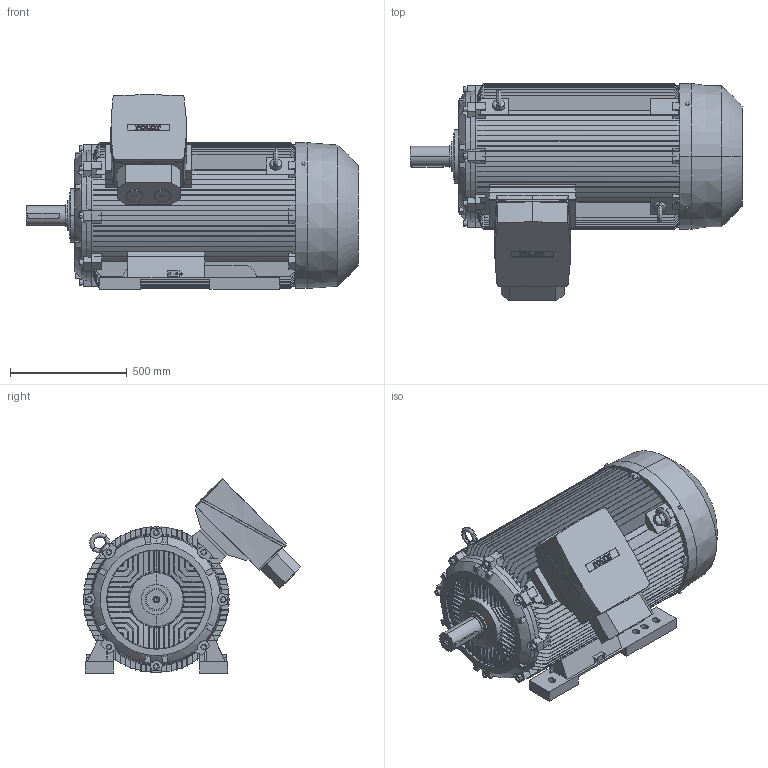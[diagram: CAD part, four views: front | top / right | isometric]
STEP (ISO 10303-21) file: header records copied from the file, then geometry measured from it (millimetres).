
FILE_DESCRIPTION (( 'STEP AP214' ), '1' );
FILE_NAME ('7RN315L04E47 IM1001.STEP', '2018-01-26T08:32:15', ( 'rotor' ), ( 'Hewlett-Packard Company' ), 'SwSTEP 2.0', 'SolidWorks 2015', '' );
FILE_SCHEMA (( 'AUTOMOTIVE_DESIGN' ));
Length unit declared in the file: millimetre
Products named in the file (1): 7RN315L04E47 IM1001
Bounding box: 1422 x 931.72 x 832.25 mm (x, y, z)
Volume: 332103750 mm3; surface area: 10223562.1 mm2
Topology: 7 solids, 7 shells, 1732 faces, 4901 edges, 3241 vertices
Faces by surface type: plane 1133, cylinder 321, torus 204, bspline 48, cone 26
Entity records: 83302 total; most frequent: CARTESIAN_POINT 21672, ORIENTED_EDGE 9790, DIRECTION 8197, EDGE_CURVE 4895, VERTEX_POINT 3241, LINE 2849, VECTOR 2849, AXIS2_PLACEMENT_3D 2674
